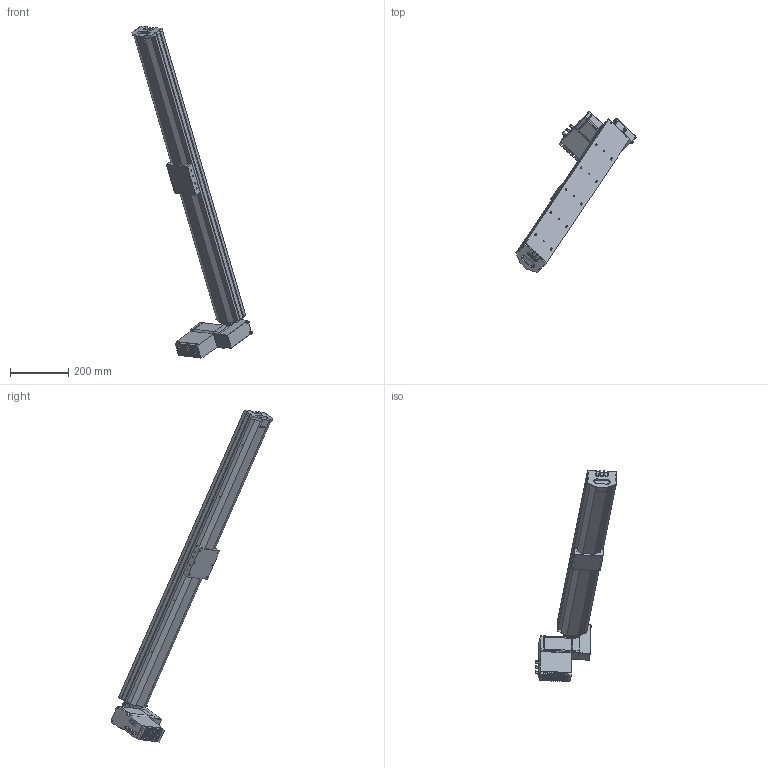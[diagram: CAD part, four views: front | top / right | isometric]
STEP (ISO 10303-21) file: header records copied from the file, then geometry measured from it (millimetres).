
FILE_DESCRIPTION (( 'STEP AP203' ), '1' );
FILE_NAME ('S10 CBH RT S1100.STEP', '2012-10-01T11:45:02', ( '' ), ( '' ), 'SwSTEP 2.0', 'SolidWorks 2010', '' );
FILE_SCHEMA (( 'CONFIG_CONTROL_DESIGN' ));
Length unit declared in the file: millimetre
Products named in the file (9): embout; MOTEUR GMI 61 ; axe 1100; S10 CBH RT S1100; moteur M3; palette tbh; plaque de bout; moteur M3_1; Plaque racord_
Assembly tree (7 placements, depth 3):
  S10 CBH RT S1100
    MOTEUR GMI 61 
    palette tbh
    plaque de bout
      Plaque racord_
      moteur M3_1
    embout
    axe 1100
  moteur M3
Bounding box: 412.27 x 554.79 x 1137.27 mm (x, y, z)
Volume: 6737405.9 mm3; surface area: 711021.2 mm2
Topology: 5 solids, 18 shells, 739 faces, 1918 edges, 1208 vertices
Faces by surface type: plane 381, cylinder 257, cone 66, torus 23, bspline 8, sphere 4
Entity records: 25721 total; most frequent: CARTESIAN_POINT 6675, DIRECTION 3841, ORIENTED_EDGE 3604, EDGE_CURVE 1852, AXIS2_PLACEMENT_3D 1314, VECTOR 1213, LINE 1213, VERTEX_POINT 1208
